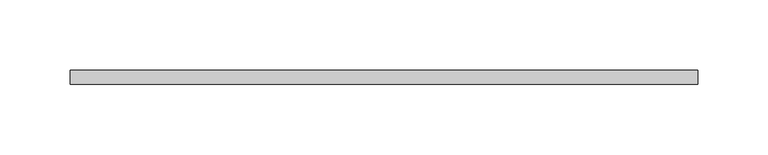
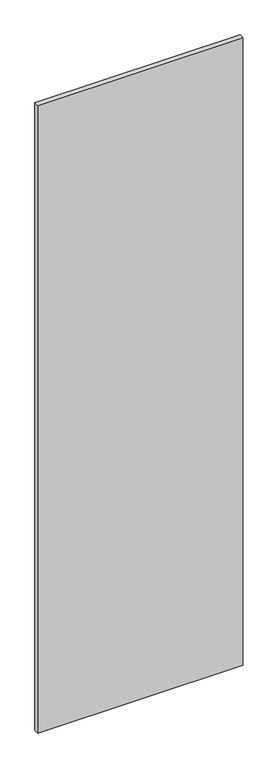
"""IFC4 building model written with IfcOpenShell, lengths in millimetres: plate geometry, Panel Flex Glassline_10mm : Panel Flex Glassline_10mm."""

import ifcopenshell
import ifcopenshell.guid

model = None  # the IFC model being written
_history = None  # IfcOwnerHistory: only IFC2X3 demands one
_inside = {}  # id of a spatial element -> (the spatial element, [elements in it])
_under = {}  # id of a project, library or spatial element -> (it, [spatial elements below it])
_declared = {}  # id of a project -> (the project, [libraries it declares])
_typed = {}  # id of a type object -> (the type object, [elements of that type])
_made_of = {}  # id of a material, layer set ... -> (it, [elements and type objects made of it])


def new_model(schema):
    """Start an empty IFC model of exactly this schema.

    Asked for "IFC4X3", IfcOpenShell would pick the latest addendum, in which some entities
    have other attributes; the version numbers below select the first issue.
    IFC2X3 requires an IfcOwnerHistory on every rooted entity: one is made here for all.
    """
    global model, _history
    if schema == "IFC4X3":
        model = ifcopenshell.file(schema_version=(4, 3, 0, 0))
    else:
        model = ifcopenshell.file(schema=schema)
    _inside.clear()
    _under.clear()
    _declared.clear()
    _typed.clear()
    _made_of.clear()
    _history = None
    if model.schema == "IFC2X3":
        org = make("IfcOrganization", Name="unknown")
        user = make(
            "IfcPersonAndOrganization",
            ThePerson=make("IfcPerson", FamilyName="unknown"),
            TheOrganization=org,
        )
        app = make(
            "IfcApplication",
            ApplicationDeveloper=org,
            Version="unknown",
            ApplicationFullName="unknown",
            ApplicationIdentifier="unknown",
        )
        _history = make(
            "IfcOwnerHistory",
            OwningUser=user,
            OwningApplication=app,
            ChangeAction="ADDED",
            CreationDate=0,
        )
    return model


def make(cls, **values):
    """One entity of the class cls with the attributes given. An attribute that is None is left unset."""
    return model.create_entity(
        cls, **{name: value for name, value in values.items() if value is not None}
    )


def rooted(cls, **values):
    """An entity with a GlobalId (a new one), such as an element, a storey or a relation."""
    return make(cls, GlobalId=ifcopenshell.guid.new(), OwnerHistory=_history, **values)


def si_unit(unit_type, name, prefix=None):
    """IfcSIUnit, for example si_unit("LENGTHUNIT", "METRE", prefix="MILLI")."""
    return make("IfcSIUnit", UnitType=unit_type, Prefix=prefix, Name=name)


def assignment(units):
    """IfcUnitAssignment: the units of a project."""
    return None if units is None else make("IfcUnitAssignment", Units=units)


def point(xyz):
    """IfcCartesianPoint."""
    return None if xyz is None else make("IfcCartesianPoint", Coordinates=xyz)


def direction(xyz):
    """IfcDirection."""
    return None if xyz is None else make("IfcDirection", DirectionRatios=xyz)


def frame(location, z_axis=None, x_axis=None):
    """IfcAxis2Placement3D, a coordinate frame: its origin and axes. An axis left out is left unset."""
    return make(
        "IfcAxis2Placement3D",
        Location=point(location),
        Axis=direction(z_axis),
        RefDirection=direction(x_axis),
    )


def origin():
    """The frame at (0, 0, 0) with its axes left unset."""
    return frame((0.0, 0.0, 0.0))


def origin_with_axes():
    """The frame at (0, 0, 0) with the z axis (0, 0, 1) and the x axis (1, 0, 0) written out."""
    return frame((0.0, 0.0, 0.0), z_axis=(0.0, 0.0, 1.0), x_axis=(1.0, 0.0, 0.0))


def place(relative_to, where):
    """IfcLocalPlacement: puts the frame where relative to a parent placement (None: the world)."""
    return make(
        "IfcLocalPlacement", PlacementRelTo=relative_to, RelativePlacement=where
    )


def context(
    kind, dimensions, precision=None, world=None, true_north=None, identifier=None
):
    """IfcGeometricRepresentationContext, for example the 3D "Model" context."""
    return make(
        "IfcGeometricRepresentationContext",
        ContextIdentifier=identifier,
        ContextType=kind,
        CoordinateSpaceDimension=dimensions,
        Precision=precision,
        WorldCoordinateSystem=world,
        TrueNorth=true_north,
    )


def project(units=None, contexts=None):
    """IfcProject with its units and contexts."""
    return rooted(
        "IfcProject",
        Name="project",
        RepresentationContexts=contexts,
        UnitsInContext=assignment(units),
    )


def spatial(cls, under=None, at=None, **own):
    """A site, building, storey or space (cls), placed at a placement, below another one or the project."""
    s = rooted(cls, ObjectPlacement=at, **own)
    if under is not None:
        _under.setdefault(under.id(), (under, []))[1].append(s)
    return s


def polyline(points):
    """IfcPolyline through the points."""
    return make("IfcPolyline", Points=[point(p) for p in points])


def outline(outer, holes=None, kind="AREA"):
    """IfcArbitraryClosedProfileDef: a profile drawn as a closed curve; with holes, ...WithVoids."""
    if holes is None:
        return make("IfcArbitraryClosedProfileDef", ProfileType=kind, OuterCurve=outer)
    return make(
        "IfcArbitraryProfileDefWithVoids",
        ProfileType=kind,
        OuterCurve=outer,
        InnerCurves=holes,
    )


def extrude(swept, where, along, depth):
    """IfcExtrudedAreaSolid: the profile swept, set in the frame where, extruded along a direction by depth."""
    return make(
        "IfcExtrudedAreaSolid",
        SweptArea=swept,
        Position=where,
        ExtrudedDirection=direction(along),
        Depth=depth,
    )


def shape(context_of_items, identifier, shape_type, items):
    """IfcShapeRepresentation: the items that make up one representation, for example the "Body"."""
    return make(
        "IfcShapeRepresentation",
        ContextOfItems=context_of_items,
        RepresentationIdentifier=identifier,
        RepresentationType=shape_type,
        Items=items,
    )


def source(mapping_origin, context_of_items, identifier, shape_type, items):
    """IfcRepresentationMap: a shape defined once, which mapped items show again and again."""
    return make(
        "IfcRepresentationMap",
        MappingOrigin=mapping_origin,
        MappedRepresentation=shape(context_of_items, identifier, shape_type, items),
    )


def transform(
    local_origin,
    x_axis=None,
    y_axis=None,
    z_axis=None,
    scale=None,
    scale2=None,
    scale3=None,
    uniform=True,
):
    """IfcCartesianTransformationOperator3D, or its non-uniform kind. x_axis, y_axis, z_axis: its Axis1, 2, 3."""
    if uniform:
        return make(
            "IfcCartesianTransformationOperator3D",
            Axis1=direction(x_axis),
            Axis2=direction(y_axis),
            LocalOrigin=point(local_origin),
            Scale=scale,
            Axis3=direction(z_axis),
        )
    return make(
        "IfcCartesianTransformationOperator3DnonUniform",
        Axis1=direction(x_axis),
        Axis2=direction(y_axis),
        LocalOrigin=point(local_origin),
        Scale=scale,
        Axis3=direction(z_axis),
        Scale2=scale2,
        Scale3=scale3,
    )


def mapped(mapping_source, mapping_target):
    """IfcMappedItem: shows the shape of a source again, moved by a transform."""
    return make(
        "IfcMappedItem", MappingSource=mapping_source, MappingTarget=mapping_target
    )


def made_of(thing, what):
    """Note that an element or type object is made of a material, layer set ...; save() writes the relation."""
    if what is not None:
        _made_of.setdefault(what.id(), (what, []))[1].append(thing)
    return thing


def element(
    cls,
    number,
    at=None,
    inside=None,
    cuts=None,
    type_object=None,
    material=None,
    context=None,
    identifier="Body",
    shape_type=None,
    held_by="IfcProductDefinitionShape",
    body=None,
    shapes=None,
    **own,
):
    """One element of the class cls, such as IfcWall. Its Tag is "e" and its number.

    at: its placement. inside: the storey or other place that contains it. cuts: it is an
    opening in that element (IfcRelVoidsElement). A single representation is given by context,
    identifier, shape_type and body (its items); several are given by shapes. held_by: the class
    of the entity that holds the representations. save() writes the other relations.
    """
    e = rooted(cls, Tag="e%d" % number, ObjectPlacement=at, **own)
    if body is not None:
        shapes = [shape(context, identifier, shape_type, body)]
    if shapes is not None:
        e.Representation = make(held_by, Representations=shapes)
    if inside is not None:
        _inside.setdefault(inside.id(), (inside, []))[1].append(e)
    if cuts is not None:
        rooted(
            "IfcRelVoidsElement", RelatingBuildingElement=cuts, RelatedOpeningElement=e
        )
    if type_object is not None:
        _typed.setdefault(type_object.id(), (type_object, []))[1].append(e)
    return made_of(e, material)


def aggregate(whole, parts):
    """IfcRelAggregates: a whole, such as a stair, and the parts it consists of."""
    return rooted("IfcRelAggregates", RelatingObject=whole, RelatedObjects=parts)


def save(model, path):
    """Write the relations noted so far, then the file.

    IfcRelAggregates (storeys below a building ...), IfcRelContainedInSpatialStructure (elements
    in a storey), IfcRelDefinesByType, IfcRelAssociatesMaterial and IfcRelDeclares: one each for
    every whole, place, type object, material and project.
    """
    for whole, parts in _under.values():
        aggregate(whole, parts)
    for where, things in _inside.values():
        rooted(
            "IfcRelContainedInSpatialStructure",
            RelatedElements=things,
            RelatingStructure=where,
        )
    for kind, things in _typed.values():
        rooted("IfcRelDefinesByType", RelatedObjects=things, RelatingType=kind)
    for what, things in _made_of.values():
        rooted("IfcRelAssociatesMaterial", RelatedObjects=things, RelatingMaterial=what)
    for by, libraries in _declared.values():
        rooted("IfcRelDeclares", RelatingContext=by, RelatedDefinitions=libraries)
    model.write(path)


def plate_065c79b7(model_context):
    return source(origin(), model_context, "Body", "SweptSolid", [
        extrude(outline(polyline([(223.8982716, 12.4), (223.8982716, 2.4), (-223.8982716, 2.4), (-223.8982716, 12.4), (223.8982716, 12.4)])), origin_with_axes(), (0.0, 0.0, 1.0), 1447.0033917),
    ])


if __name__ == "__main__":
    model = new_model("IFC4")
    model_context = context("Model", 3, world=origin())
    ifc_project = project(units=[si_unit("LENGTHUNIT", "METRE", prefix="MILLI")], contexts=[model_context])
    site = spatial("IfcSite", under=ifc_project)
    building = spatial("IfcBuilding", under=site)
    placement = place(None, origin())
    plate_shape = plate_065c79b7(model_context)
    element("IfcPlate", 1, ObjectType="Panel Flex Glassline_10mm : Panel Flex Glassline_10mm", at=placement, inside=building, context=model_context, shape_type="MappedRepresentation", body=[
        mapped(plate_shape, transform((0.0, 0.0, 0.0), x_axis=(1.0, 0.0, 0.0), y_axis=(0.0, 1.0, 0.0), z_axis=(0.0, 0.0, 1.0))),
    ])
    save(model, "model.ifc")
